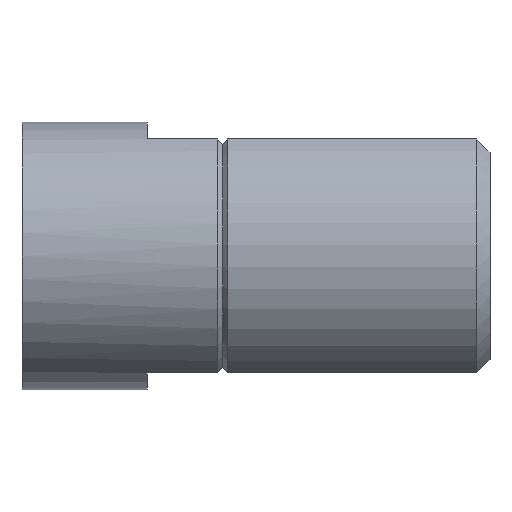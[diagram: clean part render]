
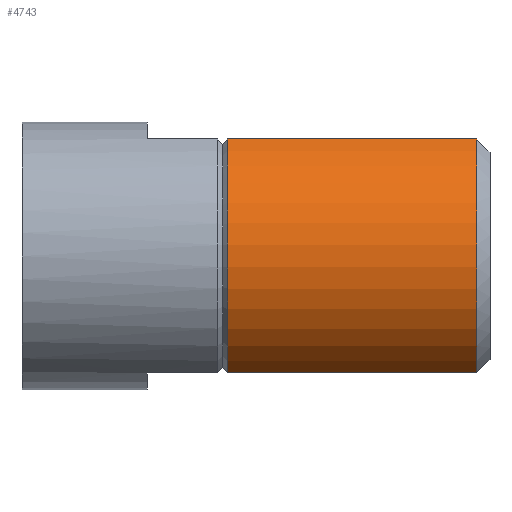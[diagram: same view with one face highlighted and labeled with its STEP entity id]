
A CAD part, left-side view. The second image highlights one B-rep face of the part: STEP entity #4743.
In plain terms, the highlighted cylindrical face has radius 7.995 mm (diameter 15.99 mm), a partial arc.
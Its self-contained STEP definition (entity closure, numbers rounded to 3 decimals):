
#61 = CIRCLE ( 'NONE', #704, 7.995 ) ;
#174 = CARTESIAN_POINT ( 'NONE',  ( 0., 0., 0. ) ) ;
#385 = CARTESIAN_POINT ( 'NONE',  ( 0., 15.7, 0. ) ) ;
#698 = DIRECTION ( 'NONE',  ( 0., 0., -1. ) ) ;
#704 = AXIS2_PLACEMENT_3D ( 'NONE', #385, #1025, #6497 ) ;
#790 = EDGE_CURVE ( 'NONE', #7495, #4757, #61, .T. ) ;
#861 = DIRECTION ( 'NONE',  ( 0., 1., 0. ) ) ;
#1025 = DIRECTION ( 'NONE',  ( 0., -1., 0. ) ) ;
#1468 = VECTOR ( 'NONE', #861, 1000. ) ;
#1807 = VERTEX_POINT ( 'NONE', #2784 ) ;
#2083 = ORIENTED_EDGE ( 'NONE', *, *, #5417, .T. ) ;
#2164 = CARTESIAN_POINT ( 'NONE',  ( -3.863, 15.7, 7. ) ) ;
#2465 = ORIENTED_EDGE ( 'NONE', *, *, #4382, .T. ) ;
#2667 = LINE ( 'NONE', #4610, #1468 ) ;
#2763 = AXIS2_PLACEMENT_3D ( 'NONE', #174, #3721, #698 ) ;
#2784 = CARTESIAN_POINT ( 'NONE',  ( -3.863, 0.8, 7. ) ) ;
#3123 = DIRECTION ( 'NONE',  ( 0., 1., 0. ) ) ;
#3158 = CARTESIAN_POINT ( 'NONE',  ( -3.863, 15.7, -7. ) ) ;
#3302 = ORIENTED_EDGE ( 'NONE', *, *, #3565, .F. ) ;
#3507 = CARTESIAN_POINT ( 'NONE',  ( -3.863, -0.41, 7. ) ) ;
#3565 = EDGE_CURVE ( 'NONE', #4856, #4757, #2667, .T. ) ;
#3721 = DIRECTION ( 'NONE',  ( 0., -1., 0. ) ) ;
#3728 = CARTESIAN_POINT ( 'NONE',  ( 0., 0.8, 0. ) ) ;
#4331 = CARTESIAN_POINT ( 'NONE',  ( -3.863, 0.8, -7. ) ) ;
#4382 = EDGE_CURVE ( 'NONE', #4856, #1807, #4423, .T. ) ;
#4423 = CIRCLE ( 'NONE', #6732, 7.995 ) ;
#4610 = CARTESIAN_POINT ( 'NONE',  ( -3.863, -0.41, -7. ) ) ;
#4743 = ADVANCED_FACE ( 'NONE', ( #6207 ), #5686, .T. ) ;
#4757 = VERTEX_POINT ( 'NONE', #3158 ) ;
#4856 = VERTEX_POINT ( 'NONE', #4331 ) ;
#4982 = DIRECTION ( 'NONE',  ( 0., 0., -1. ) ) ;
#5278 = LINE ( 'NONE', #3507, #7895 ) ;
#5417 = EDGE_CURVE ( 'NONE', #1807, #7495, #5278, .T. ) ;
#5686 = CYLINDRICAL_SURFACE ( 'NONE', #2763, 7.995 ) ;
#5932 = ORIENTED_EDGE ( 'NONE', *, *, #790, .T. ) ;
#5957 = DIRECTION ( 'NONE',  ( 0., 1., 0. ) ) ;
#6207 = FACE_OUTER_BOUND ( 'NONE', #7310, .T. ) ;
#6497 = DIRECTION ( 'NONE',  ( 0., 0., 1. ) ) ;
#6732 = AXIS2_PLACEMENT_3D ( 'NONE', #3728, #3123, #4982 ) ;
#7310 = EDGE_LOOP ( 'NONE', ( #3302, #2465, #2083, #5932 ) ) ;
#7495 = VERTEX_POINT ( 'NONE', #2164 ) ;
#7895 = VECTOR ( 'NONE', #5957, 1000. ) ;
